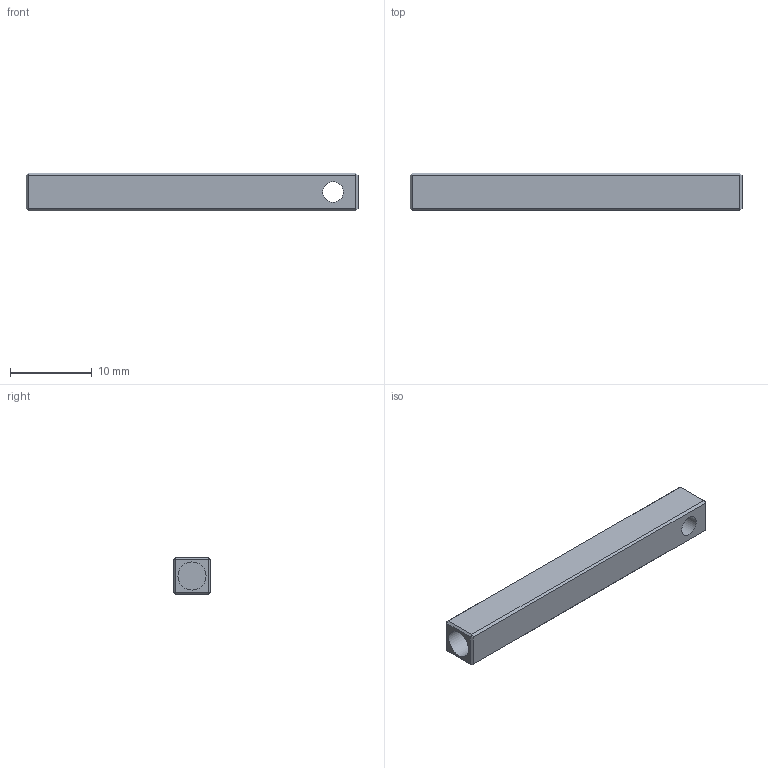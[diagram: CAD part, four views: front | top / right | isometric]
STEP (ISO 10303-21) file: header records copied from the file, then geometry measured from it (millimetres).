
FILE_DESCRIPTION(/* description */ (''),/* implementation_level */ '2;1');
FILE_NAME(/* name */ 'C:/Users/Ryan/Documents/AIO Robotics/CAD Files/TensionerPins.step',/* time_stamp */ '2017-02-04T20:45:42-08:00',/* author */ (''),/* organization */ (''),/* preprocessor_version */ 'ST-DEVELOPER v16.5',/* originating_system */ 'Autodesk Translation Framework v5.2.0.2920',/* authorisation */ '');
FILE_SCHEMA (('AUTOMOTIVE_DESIGN { 1 0 10303 214 3 1 1 }'));
Length unit declared in the file: inch
Products named in the file (1): TensionerPins v3
Bounding box: 40.64 x 4.57 x 4.57 mm (x, y, z)
Volume: 562 mm3; surface area: 1082.5 mm2
Topology: 1 solids, 1 shells, 29 faces, 54 edges, 28 vertices
Faces by surface type: plane 27, cylinder 2
Full cylindrical faces by diameter (mm): 2.54 x1, 3.429 x1
Entity records: 698 total; most frequent: DIRECTION 116, CARTESIAN_POINT 110, ORIENTED_EDGE 104, EDGE_CURVE 52, LINE 48, VECTOR 48, EDGE_LOOP 34, AXIS2_PLACEMENT_3D 34
